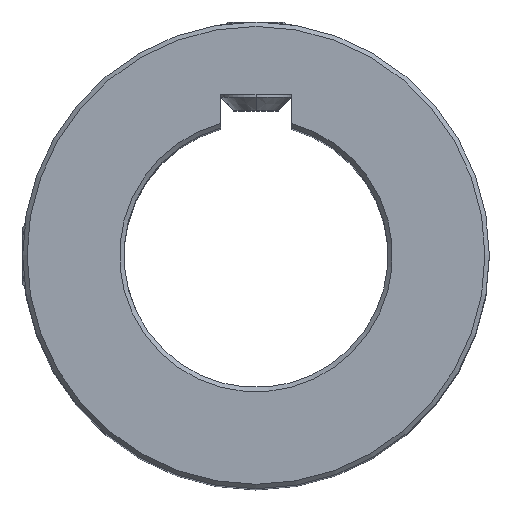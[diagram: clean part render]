
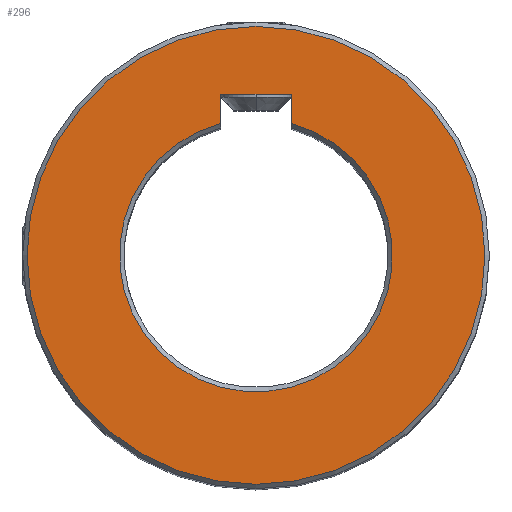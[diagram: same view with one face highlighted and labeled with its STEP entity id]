
A CAD part, top view. The second image highlights one B-rep face of the part: STEP entity #296.
In plain terms, the highlighted planar face has unit normal (0, 0, 1).
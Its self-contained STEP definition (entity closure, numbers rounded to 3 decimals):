
#296 = ADVANCED_FACE ( 'NONE', ( #1599, #4370 ), #6979, .T. ) ;
#327 = CARTESIAN_POINT ( 'NONE',  ( 4., 18.3, 41.5 ) ) ;
#382 = VERTEX_POINT ( 'NONE', #2383 ) ;
#479 = CARTESIAN_POINT ( 'NONE',  ( 0., 0., 41.5 ) ) ;
#907 = CIRCLE ( 'NONE', #2459, 26. ) ;
#923 = CARTESIAN_POINT ( 'NONE',  ( 4., 14.975, 41.5 ) ) ;
#993 = CARTESIAN_POINT ( 'NONE',  ( 0., 0., 41.5 ) ) ;
#1090 = DIRECTION ( 'NONE',  ( 0., 1., 0. ) ) ;
#1162 = EDGE_LOOP ( 'NONE', ( #3913 ) ) ;
#1183 = VERTEX_POINT ( 'NONE', #923 ) ;
#1232 = DIRECTION ( 'NONE',  ( 0., 0., -1. ) ) ;
#1327 = CARTESIAN_POINT ( 'NONE',  ( -4., 18.3, 41.5 ) ) ;
#1352 = ORIENTED_EDGE ( 'NONE', *, *, #5854, .F. ) ;
#1599 = FACE_BOUND ( 'NONE', #3860, .T. ) ;
#1624 = EDGE_CURVE ( 'NONE', #4945, #382, #8107, .T. ) ;
#1682 = DIRECTION ( 'NONE',  ( 1., 0., 0. ) ) ;
#2278 = VECTOR ( 'NONE', #1090, 1000. ) ;
#2383 = CARTESIAN_POINT ( 'NONE',  ( -4., 14.975, 41.5 ) ) ;
#2459 = AXIS2_PLACEMENT_3D ( 'NONE', #479, #4560, #8497 ) ;
#2770 = DIRECTION ( 'NONE',  ( 0., -1., 0. ) ) ;
#2847 = CARTESIAN_POINT ( 'NONE',  ( -4., 18.3, 41.5 ) ) ;
#3006 = LINE ( 'NONE', #327, #6451 ) ;
#3092 = EDGE_CURVE ( 'NONE', #3904, #3904, #907, .T. ) ;
#3233 = ORIENTED_EDGE ( 'NONE', *, *, #4373, .F. ) ;
#3266 = EDGE_CURVE ( 'NONE', #1183, #382, #5115, .T. ) ;
#3540 = VECTOR ( 'NONE', #2770, 1000. ) ;
#3860 = EDGE_LOOP ( 'NONE', ( #3233, #6463, #5399, #1352 ) ) ;
#3904 = VERTEX_POINT ( 'NONE', #6551 ) ;
#3913 = ORIENTED_EDGE ( 'NONE', *, *, #3092, .T. ) ;
#4070 = AXIS2_PLACEMENT_3D ( 'NONE', #993, #7020, #1682 ) ;
#4175 = VERTEX_POINT ( 'NONE', #6083 ) ;
#4370 = FACE_OUTER_BOUND ( 'NONE', #1162, .T. ) ;
#4373 = EDGE_CURVE ( 'NONE', #1183, #4175, #8396, .T. ) ;
#4560 = DIRECTION ( 'NONE',  ( 0., 0., 1. ) ) ;
#4944 = CARTESIAN_POINT ( 'NONE',  ( 4., 18.3, 41.5 ) ) ;
#4945 = VERTEX_POINT ( 'NONE', #2847 ) ;
#5115 = CIRCLE ( 'NONE', #5645, 15.5 ) ;
#5399 = ORIENTED_EDGE ( 'NONE', *, *, #1624, .F. ) ;
#5645 = AXIS2_PLACEMENT_3D ( 'NONE', #5763, #1232, #8585 ) ;
#5653 = DIRECTION ( 'NONE',  ( -1., 0., 0. ) ) ;
#5763 = CARTESIAN_POINT ( 'NONE',  ( 0., 0., 41.5 ) ) ;
#5854 = EDGE_CURVE ( 'NONE', #4175, #4945, #3006, .T. ) ;
#6083 = CARTESIAN_POINT ( 'NONE',  ( 4., 18.3, 41.5 ) ) ;
#6451 = VECTOR ( 'NONE', #5653, 1000. ) ;
#6463 = ORIENTED_EDGE ( 'NONE', *, *, #3266, .T. ) ;
#6551 = CARTESIAN_POINT ( 'NONE',  ( 26., 0., 41.5 ) ) ;
#6979 = PLANE ( 'NONE',  #4070 ) ;
#7020 = DIRECTION ( 'NONE',  ( 0., 0., 1. ) ) ;
#8107 = LINE ( 'NONE', #1327, #3540 ) ;
#8396 = LINE ( 'NONE', #4944, #2278 ) ;
#8497 = DIRECTION ( 'NONE',  ( 1., 0., 0. ) ) ;
#8585 = DIRECTION ( 'NONE',  ( 1., 0., 0. ) ) ;
